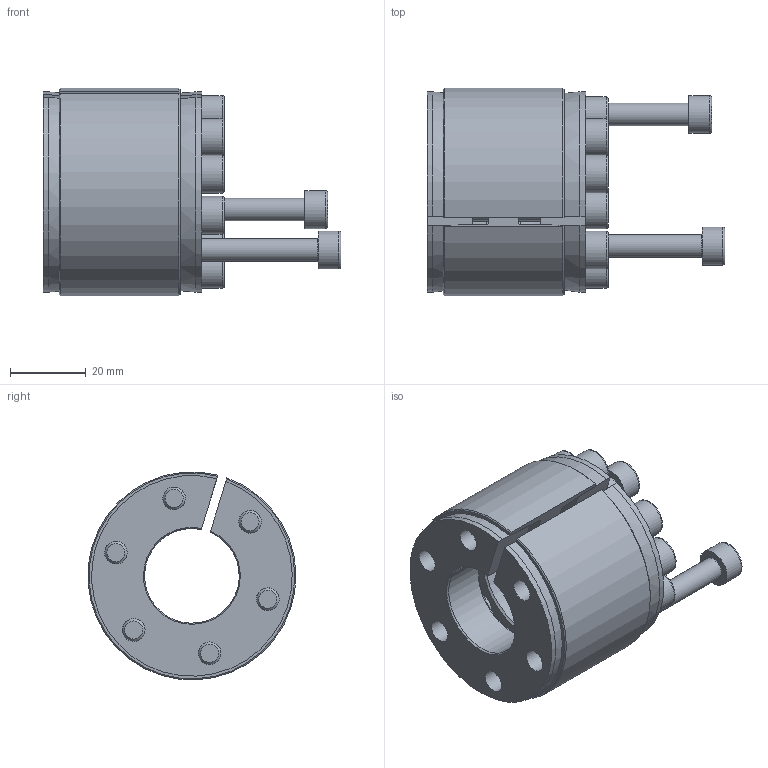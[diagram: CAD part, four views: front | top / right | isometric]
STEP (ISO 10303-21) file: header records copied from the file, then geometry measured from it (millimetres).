
FILE_DESCRIPTION(/* description */ (''),/* implementation_level */ '2;1');
FILE_NAME(/* name */ 'Z:\Amir\Disegni 3D\CALETTATORI\RCK 11\25x55 - 06110025\Assieme chiuso.stp',/* time_stamp */ '2015-01-27T13:55:35+01:00',/* author */ ('Amir.Elmekauy'),/* organization */ (''),/* preprocessor_version */ 'ST-DEVELOPER v15.6',/* originating_system */ 'Autodesk Inventor 2015',/* authorisation */ '');
FILE_SCHEMA (('AUTOMOTIVE_DESIGN { 1 0 10303 214 3 1 1 }'));
Length unit declared in the file: millimetre
Products named in the file (6): Anello esterno; DIN 912 - M6 x 35 Brunita; DIN 912 - M6 x 35 Zincata; Tronco; Tronco2; Assieme chiuso
Bounding box: 78.69 x 54.93 x 54.88 mm (x, y, z)
Volume: 64667.3 mm3; surface area: 41292 mm2
Topology: 14 solids, 14 shells, 225 faces, 514 edges, 328 vertices
Faces by surface type: plane 113, cylinder 54, cone 34, torus 24
Full cylindrical faces by diameter (mm): 6 x22, 7 x15, 10 x11
Entity records: 2838 total; most frequent: CARTESIAN_POINT 554, DIRECTION 464, ORIENTED_EDGE 372, AXIS2_PLACEMENT_3D 204, EDGE_CURVE 186, EDGE_LOOP 182, VERTEX_POINT 146, CIRCLE 94
